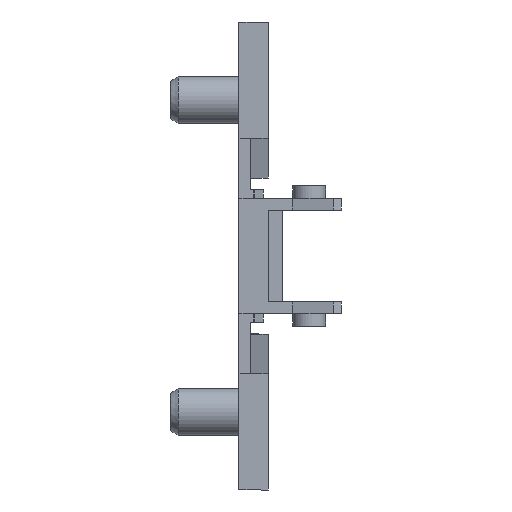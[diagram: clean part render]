
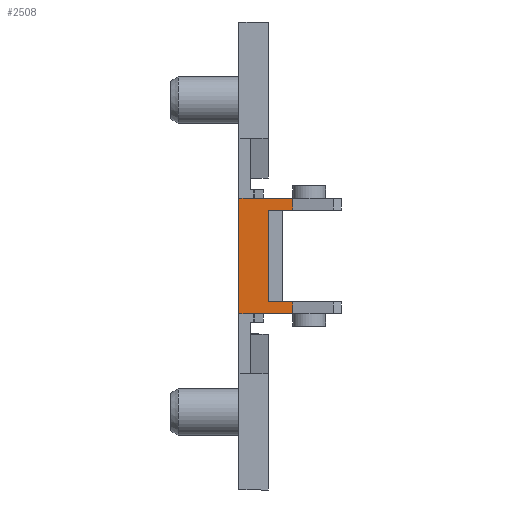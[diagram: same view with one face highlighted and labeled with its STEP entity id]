
A CAD part, front view. The second image highlights one B-rep face of the part: STEP entity #2508.
In plain terms, the highlighted planar face has unit normal (0, -1, 0).
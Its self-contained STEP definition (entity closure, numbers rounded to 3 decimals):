
#70 = DIRECTION ( 'NONE',  ( 0., 0., -1. ) ) ;
#159 = DIRECTION ( 'NONE',  ( 1., 0., 0. ) ) ;
#182 = CARTESIAN_POINT ( 'NONE',  ( 5.523, -25.55, 4.7 ) ) ;
#187 = CARTESIAN_POINT ( 'NONE',  ( 5.523, -25.55, 5.9 ) ) ;
#189 = CARTESIAN_POINT ( 'NONE',  ( 0., -25.55, -5.9 ) ) ;
#194 = CARTESIAN_POINT ( 'NONE',  ( 5.523, -25.55, -5.9 ) ) ;
#196 = CARTESIAN_POINT ( 'NONE',  ( 3., -25.55, 4.7 ) ) ;
#200 = VERTEX_POINT ( 'NONE', #201 ) ;
#201 = CARTESIAN_POINT ( 'NONE',  ( 0., -25.55, 5.9 ) ) ;
#211 = CARTESIAN_POINT ( 'NONE',  ( 3., -25.55, -4.7 ) ) ;
#219 = VERTEX_POINT ( 'NONE', #211 ) ;
#257 = CARTESIAN_POINT ( 'NONE',  ( 3., -25.55, -5.9 ) ) ;
#267 = DIRECTION ( 'NONE',  ( 0., 0., -1. ) ) ;
#287 = VERTEX_POINT ( 'NONE', #189 ) ;
#294 = CARTESIAN_POINT ( 'NONE',  ( 5.523, -25.55, 67.733 ) ) ;
#295 = VERTEX_POINT ( 'NONE', #196 ) ;
#307 = VERTEX_POINT ( 'NONE', #187 ) ;
#309 = VERTEX_POINT ( 'NONE', #194 ) ;
#316 = CARTESIAN_POINT ( 'NONE',  ( 5.523, -25.55, 67.733 ) ) ;
#321 = VERTEX_POINT ( 'NONE', #182 ) ;
#337 = DIRECTION ( 'NONE',  ( 0., 0., -1. ) ) ;
#346 = CARTESIAN_POINT ( 'NONE',  ( 1.5, -25.55, -5.9 ) ) ;
#387 = ORIENTED_EDGE ( 'NONE', *, *, #4215, .T. ) ;
#395 = ORIENTED_EDGE ( 'NONE', *, *, #674, .F. ) ;
#413 = ORIENTED_EDGE ( 'NONE', *, *, #784, .F. ) ;
#441 = ORIENTED_EDGE ( 'NONE', *, *, #4301, .F. ) ;
#509 = ORIENTED_EDGE ( 'NONE', *, *, #641, .F. ) ;
#514 = ORIENTED_EDGE ( 'NONE', *, *, #4198, .T. ) ;
#518 = ORIENTED_EDGE ( 'NONE', *, *, #829, .T. ) ;
#561 = ORIENTED_EDGE ( 'NONE', *, *, #586, .T. ) ;
#586 = EDGE_CURVE ( 'NONE', #287, #309, #3006, .T. ) ;
#641 = EDGE_CURVE ( 'NONE', #307, #321, #3045, .T. ) ;
#674 = EDGE_CURVE ( 'NONE', #3881, #309, #3058, .T. ) ;
#719 = AXIS2_PLACEMENT_3D ( 'NONE', #1220, #1223, #1224 ) ;
#784 = EDGE_CURVE ( 'NONE', #295, #219, #3107, .T. ) ;
#829 = EDGE_CURVE ( 'NONE', #200, #287, #3139, .T. ) ;
#936 = CARTESIAN_POINT ( 'NONE',  ( 0., -25.55, 15.37 ) ) ;
#941 = DIRECTION ( 'NONE',  ( 0., 0., -1. ) ) ;
#1220 = CARTESIAN_POINT ( 'NONE',  ( 10.5, -25.55, -5.9 ) ) ;
#1221 = PLANE ( 'NONE',  #719 ) ;
#1223 = DIRECTION ( 'NONE',  ( 0., -1., 0. ) ) ;
#1224 = DIRECTION ( 'NONE',  ( -1., 0., 0. ) ) ;
#1532 = CARTESIAN_POINT ( 'NONE',  ( 5.523, -25.55, -4.7 ) ) ;
#2089 = CARTESIAN_POINT ( 'NONE',  ( 10.5, -25.55, 5.9 ) ) ;
#2090 = DIRECTION ( 'NONE',  ( -1., 0., 0. ) ) ;
#2135 = CARTESIAN_POINT ( 'NONE',  ( 10.5, -25.55, 4.7 ) ) ;
#2136 = DIRECTION ( 'NONE',  ( 1., 0., 0. ) ) ;
#2345 = CARTESIAN_POINT ( 'NONE',  ( 10.5, -25.55, -4.7 ) ) ;
#2346 = DIRECTION ( 'NONE',  ( 1., 0., 0. ) ) ;
#2508 = ADVANCED_FACE ( 'NONE', ( #3287 ), #1221, .T. ) ;
#2644 = EDGE_LOOP ( 'NONE', ( #413, #387, #509, #514, #518, #561, #395, #441 ) ) ;
#3005 = VECTOR ( 'NONE', #159, 1000. ) ;
#3006 = LINE ( 'NONE', #346, #3005 ) ;
#3045 = LINE ( 'NONE', #294, #3046 ) ;
#3046 = VECTOR ( 'NONE', #337, 1000. ) ;
#3053 = VECTOR ( 'NONE', #70, 1000. ) ;
#3058 = LINE ( 'NONE', #316, #3053 ) ;
#3107 = LINE ( 'NONE', #257, #3125 ) ;
#3125 = VECTOR ( 'NONE', #267, 1000. ) ;
#3139 = LINE ( 'NONE', #936, #3150 ) ;
#3150 = VECTOR ( 'NONE', #941, 1000. ) ;
#3287 = FACE_OUTER_BOUND ( 'NONE', #2644, .T. ) ;
#3688 = LINE ( 'NONE', #2089, #3689 ) ;
#3689 = VECTOR ( 'NONE', #2090, 1000. ) ;
#3717 = LINE ( 'NONE', #2135, #3718 ) ;
#3718 = VECTOR ( 'NONE', #2136, 1000. ) ;
#3858 = LINE ( 'NONE', #2345, #3859 ) ;
#3859 = VECTOR ( 'NONE', #2346, 1000. ) ;
#3881 = VERTEX_POINT ( 'NONE', #1532 ) ;
#4198 = EDGE_CURVE ( 'NONE', #307, #200, #3688, .T. ) ;
#4215 = EDGE_CURVE ( 'NONE', #295, #321, #3717, .T. ) ;
#4301 = EDGE_CURVE ( 'NONE', #219, #3881, #3858, .T. ) ;
